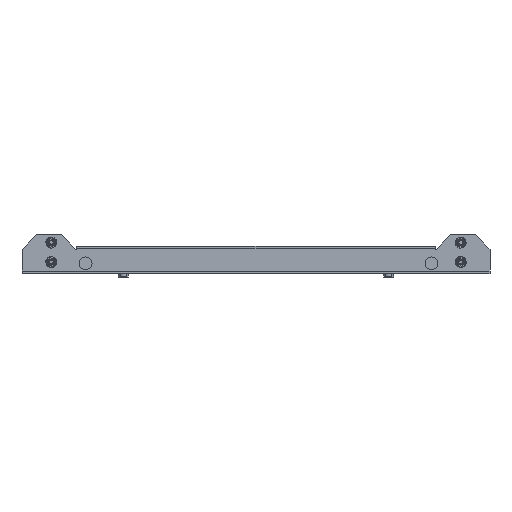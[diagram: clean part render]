
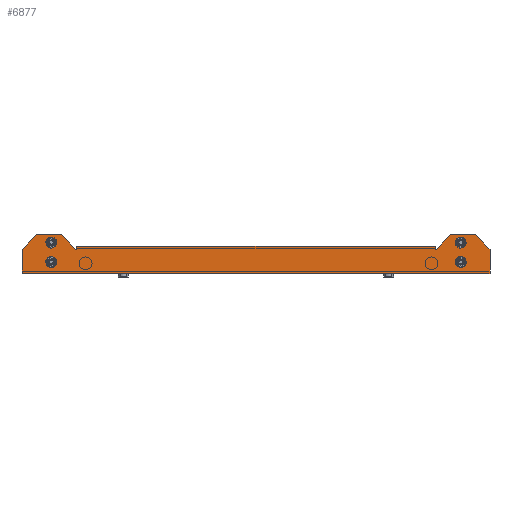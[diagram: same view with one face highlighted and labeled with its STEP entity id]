
A CAD part, front view. The second image highlights one B-rep face of the part: STEP entity #6877.
In plain terms, the highlighted planar face has unit normal (0, -1, 0).
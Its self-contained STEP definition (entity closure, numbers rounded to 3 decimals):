
#6841 = EDGE_CURVE('',#6842,#6844,#6846,.T.);
#6842 = VERTEX_POINT('',#6843);
#6843 = CARTESIAN_POINT('',(-300.,-2.5,3.5));
#6844 = VERTEX_POINT('',#6845);
#6845 = CARTESIAN_POINT('',(-300.,-2.5,31.5));
#6846 = LINE('',#6847,#6848);
#6847 = CARTESIAN_POINT('',(-300.,-2.5,0.));
#6848 = VECTOR('',#6849,1.);
#6849 = DIRECTION('',(0.,0.,1.));
#6877 = ADVANCED_FACE('',(#6878,#6889,#6900,#6911,#6922),#7043,.F.);
#6878 = FACE_BOUND('',#6879,.T.);
#6879 = EDGE_LOOP('',(#6880));
#6880 = ORIENTED_EDGE('',*,*,#6881,.F.);
#6881 = EDGE_CURVE('',#6882,#6882,#6884,.T.);
#6882 = VERTEX_POINT('',#6883);
#6883 = CARTESIAN_POINT('',(262.5,-2.5,44.75));
#6884 = CIRCLE('',#6885,4.75);
#6885 = AXIS2_PLACEMENT_3D('',#6886,#6887,#6888);
#6886 = CARTESIAN_POINT('',(262.5,-2.5,40.));
#6887 = DIRECTION('',(0.,-1.,0.));
#6888 = DIRECTION('',(0.,0.,1.));
#6889 = FACE_BOUND('',#6890,.T.);
#6890 = EDGE_LOOP('',(#6891));
#6891 = ORIENTED_EDGE('',*,*,#6892,.F.);
#6892 = EDGE_CURVE('',#6893,#6893,#6895,.T.);
#6893 = VERTEX_POINT('',#6894);
#6894 = CARTESIAN_POINT('',(262.5,-2.5,19.75));
#6895 = CIRCLE('',#6896,4.75);
#6896 = AXIS2_PLACEMENT_3D('',#6897,#6898,#6899);
#6897 = CARTESIAN_POINT('',(262.5,-2.5,15.));
#6898 = DIRECTION('',(0.,-1.,0.));
#6899 = DIRECTION('',(0.,0.,1.));
#6900 = FACE_BOUND('',#6901,.T.);
#6901 = EDGE_LOOP('',(#6902));
#6902 = ORIENTED_EDGE('',*,*,#6903,.F.);
#6903 = EDGE_CURVE('',#6904,#6904,#6906,.T.);
#6904 = VERTEX_POINT('',#6905);
#6905 = CARTESIAN_POINT('',(-262.5,-2.5,19.75));
#6906 = CIRCLE('',#6907,4.75);
#6907 = AXIS2_PLACEMENT_3D('',#6908,#6909,#6910);
#6908 = CARTESIAN_POINT('',(-262.5,-2.5,15.));
#6909 = DIRECTION('',(0.,-1.,0.));
#6910 = DIRECTION('',(0.,0.,1.));
#6911 = FACE_BOUND('',#6912,.T.);
#6912 = EDGE_LOOP('',(#6913));
#6913 = ORIENTED_EDGE('',*,*,#6914,.F.);
#6914 = EDGE_CURVE('',#6915,#6915,#6917,.T.);
#6915 = VERTEX_POINT('',#6916);
#6916 = CARTESIAN_POINT('',(-262.5,-2.5,44.75));
#6917 = CIRCLE('',#6918,4.75);
#6918 = AXIS2_PLACEMENT_3D('',#6919,#6920,#6921);
#6919 = CARTESIAN_POINT('',(-262.5,-2.5,40.));
#6920 = DIRECTION('',(0.,-1.,0.));
#6921 = DIRECTION('',(0.,0.,1.));
#6922 = FACE_BOUND('',#6923,.T.);
#6923 = EDGE_LOOP('',(#6924,#6934,#6942,#6950,#6958,#6966,#6974,#6982,
    #6990,#6998,#7006,#7014,#7020,#7021,#7029,#7037));
#6924 = ORIENTED_EDGE('',*,*,#6925,.F.);
#6925 = EDGE_CURVE('',#6926,#6928,#6930,.T.);
#6926 = VERTEX_POINT('',#6927);
#6927 = CARTESIAN_POINT('',(300.,-2.5,31.5));
#6928 = VERTEX_POINT('',#6929);
#6929 = CARTESIAN_POINT('',(300.,-2.5,3.5));
#6930 = LINE('',#6931,#6932);
#6931 = CARTESIAN_POINT('',(300.,-2.5,0.));
#6932 = VECTOR('',#6933,1.);
#6933 = DIRECTION('',(-0.,-0.,-1.));
#6934 = ORIENTED_EDGE('',*,*,#6935,.T.);
#6935 = EDGE_CURVE('',#6926,#6936,#6938,.T.);
#6936 = VERTEX_POINT('',#6937);
#6937 = CARTESIAN_POINT('',(281.5,-2.5,50.));
#6938 = LINE('',#6939,#6940);
#6939 = CARTESIAN_POINT('',(281.5,-2.5,50.));
#6940 = VECTOR('',#6941,1.);
#6941 = DIRECTION('',(-0.707,-0.,0.707));
#6942 = ORIENTED_EDGE('',*,*,#6943,.F.);
#6943 = EDGE_CURVE('',#6944,#6936,#6946,.T.);
#6944 = VERTEX_POINT('',#6945);
#6945 = CARTESIAN_POINT('',(250.,-2.5,50.));
#6946 = LINE('',#6947,#6948);
#6947 = CARTESIAN_POINT('',(300.,-2.5,50.));
#6948 = VECTOR('',#6949,1.);
#6949 = DIRECTION('',(1.,-0.,0.));
#6950 = ORIENTED_EDGE('',*,*,#6951,.T.);
#6951 = EDGE_CURVE('',#6944,#6952,#6954,.T.);
#6952 = VERTEX_POINT('',#6953);
#6953 = CARTESIAN_POINT('',(231.5,-2.5,31.5));
#6954 = LINE('',#6955,#6956);
#6955 = CARTESIAN_POINT('',(100.,-2.5,-100.));
#6956 = VECTOR('',#6957,1.);
#6957 = DIRECTION('',(-0.707,0.,-0.707));
#6958 = ORIENTED_EDGE('',*,*,#6959,.F.);
#6959 = EDGE_CURVE('',#6960,#6952,#6962,.T.);
#6960 = VERTEX_POINT('',#6961);
#6961 = CARTESIAN_POINT('',(230.,-2.5,31.5));
#6962 = LINE('',#6963,#6964);
#6963 = CARTESIAN_POINT('',(-250.,-2.5,31.5));
#6964 = VECTOR('',#6965,1.);
#6965 = DIRECTION('',(1.,0.,0.));
#6966 = ORIENTED_EDGE('',*,*,#6967,.T.);
#6967 = EDGE_CURVE('',#6960,#6968,#6970,.T.);
#6968 = VERTEX_POINT('',#6969);
#6969 = CARTESIAN_POINT('',(230.,-2.5,35.));
#6970 = LINE('',#6971,#6972);
#6971 = CARTESIAN_POINT('',(230.,-2.5,31.5));
#6972 = VECTOR('',#6973,1.);
#6973 = DIRECTION('',(-0.,-0.,1.));
#6974 = ORIENTED_EDGE('',*,*,#6975,.F.);
#6975 = EDGE_CURVE('',#6976,#6968,#6978,.T.);
#6976 = VERTEX_POINT('',#6977);
#6977 = CARTESIAN_POINT('',(-230.,-2.5,35.));
#6978 = LINE('',#6979,#6980);
#6979 = CARTESIAN_POINT('',(0.,-2.5,35.));
#6980 = VECTOR('',#6981,1.);
#6981 = DIRECTION('',(1.,-0.,-0.));
#6982 = ORIENTED_EDGE('',*,*,#6983,.F.);
#6983 = EDGE_CURVE('',#6984,#6976,#6986,.T.);
#6984 = VERTEX_POINT('',#6985);
#6985 = CARTESIAN_POINT('',(-230.,-2.5,31.5));
#6986 = LINE('',#6987,#6988);
#6987 = CARTESIAN_POINT('',(-230.,-2.5,0.));
#6988 = VECTOR('',#6989,1.);
#6989 = DIRECTION('',(0.,0.,1.));
#6990 = ORIENTED_EDGE('',*,*,#6991,.F.);
#6991 = EDGE_CURVE('',#6992,#6984,#6994,.T.);
#6992 = VERTEX_POINT('',#6993);
#6993 = CARTESIAN_POINT('',(-231.5,-2.5,31.5));
#6994 = LINE('',#6995,#6996);
#6995 = CARTESIAN_POINT('',(-250.,-2.5,31.5));
#6996 = VECTOR('',#6997,1.);
#6997 = DIRECTION('',(1.,0.,0.));
#6998 = ORIENTED_EDGE('',*,*,#6999,.T.);
#6999 = EDGE_CURVE('',#6992,#7000,#7002,.T.);
#7000 = VERTEX_POINT('',#7001);
#7001 = CARTESIAN_POINT('',(-250.,-2.5,50.));
#7002 = LINE('',#7003,#7004);
#7003 = CARTESIAN_POINT('',(-100.,-2.5,-100.));
#7004 = VECTOR('',#7005,1.);
#7005 = DIRECTION('',(-0.707,-0.,0.707));
#7006 = ORIENTED_EDGE('',*,*,#7007,.F.);
#7007 = EDGE_CURVE('',#7008,#7000,#7010,.T.);
#7008 = VERTEX_POINT('',#7009);
#7009 = CARTESIAN_POINT('',(-281.5,-2.5,50.));
#7010 = LINE('',#7011,#7012);
#7011 = CARTESIAN_POINT('',(-300.,-2.5,50.));
#7012 = VECTOR('',#7013,1.);
#7013 = DIRECTION('',(1.,0.,0.));
#7014 = ORIENTED_EDGE('',*,*,#7015,.T.);
#7015 = EDGE_CURVE('',#7008,#6844,#7016,.T.);
#7016 = LINE('',#7017,#7018);
#7017 = CARTESIAN_POINT('',(-300.,-2.5,31.5));
#7018 = VECTOR('',#7019,1.);
#7019 = DIRECTION('',(-0.707,-0.,-0.707));
#7020 = ORIENTED_EDGE('',*,*,#6841,.F.);
#7021 = ORIENTED_EDGE('',*,*,#7022,.T.);
#7022 = EDGE_CURVE('',#6842,#7023,#7025,.T.);
#7023 = VERTEX_POINT('',#7024);
#7024 = CARTESIAN_POINT('',(-300.,-2.5,0.));
#7025 = LINE('',#7026,#7027);
#7026 = CARTESIAN_POINT('',(-300.,-2.5,3.5));
#7027 = VECTOR('',#7028,1.);
#7028 = DIRECTION('',(0.,-0.,-1.));
#7029 = ORIENTED_EDGE('',*,*,#7030,.F.);
#7030 = EDGE_CURVE('',#7031,#7023,#7033,.T.);
#7031 = VERTEX_POINT('',#7032);
#7032 = CARTESIAN_POINT('',(300.,-2.5,0.));
#7033 = LINE('',#7034,#7035);
#7034 = CARTESIAN_POINT('',(0.,-2.5,0.));
#7035 = VECTOR('',#7036,1.);
#7036 = DIRECTION('',(-1.,-0.,0.));
#7037 = ORIENTED_EDGE('',*,*,#7038,.F.);
#7038 = EDGE_CURVE('',#6928,#7031,#7039,.T.);
#7039 = LINE('',#7040,#7041);
#7040 = CARTESIAN_POINT('',(300.,-2.5,0.));
#7041 = VECTOR('',#7042,1.);
#7042 = DIRECTION('',(0.,0.,-1.));
#7043 = PLANE('',#7044);
#7044 = AXIS2_PLACEMENT_3D('',#7045,#7046,#7047);
#7045 = CARTESIAN_POINT('',(0.,-2.5,0.));
#7046 = DIRECTION('',(0.,1.,0.));
#7047 = DIRECTION('',(0.,-0.,1.));
